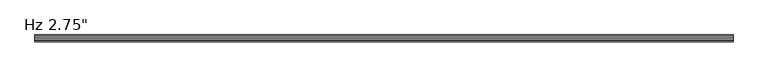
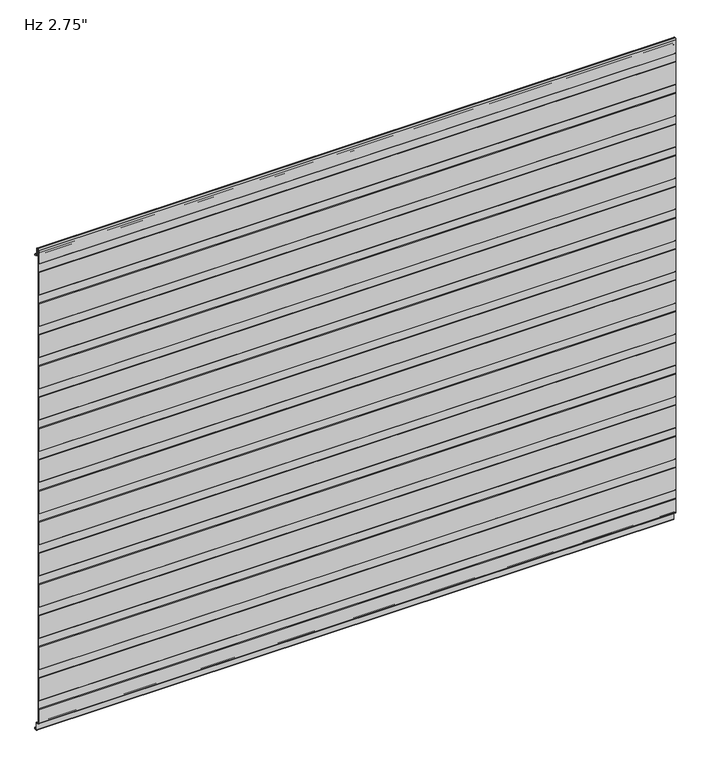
"""IFC4 building model written with IfcOpenShell, lengths in millimetres: plate geometry."""

from ifc_helpers import new_model, si_unit, frame, origin, place, context, project, spatial, polyline, circle_curve, source, transform, mapped, element, save
from ifc_brep_helpers import plane_surface, cylinder_surface, revolved_surface, advanced_brep


def plate_071a0944(model_context):
    return source(origin(), model_context, "Body", "AdvancedBrep", [
        advanced_brep(
        [(-730.0, -69.9, 966.9508592), (-730.0, -69.9, 1021.5303137), (-730.0, -68.7088405, 1022.6028385), (-730.0, -68.7088405, 1041.5009546), (-730.0, -69.9, 1042.5734794), (-730.0, -69.9, 1097.152934), (-730.0, -68.7088405, 1098.2254588), (-730.0, -68.7088405, 1117.1235749), (-730.0, -69.8999956, 1118.1960958), (-730.0, -69.8999956, 1150.8100652), (-730.0, -66.9227271, 1153.7873337), (-730.0, -65.8806285, 1153.7873337), (-730.0, -62.90336, 1150.8100652), (-730.0, -62.90336, 1136.6216801), (-730.0, -61.3154834, 1135.0338036), (-730.0, -56.9950653, 1135.0338036), (-730.0, -55.4065979, 1133.3929042), (-730.0, -55.4065979, 1131.0482432), (-730.0, -56.4060718, 1131.0482432), (-730.0, -56.4060718, 1133.4253365), (-730.0, -56.9950653, 1134.0338037), (-730.0, -61.3154834, 1134.0338037), (-730.0, -63.90336, 1136.6216801), (-730.0, -63.90336, 1150.8100652), (-730.0, -65.8806285, 1152.7873337), (-730.0, -66.9227271, 1152.7873337), (-730.0, -68.8999956, 1150.8100652), (-730.0, -68.8999956, 1118.6385351), (-730.0, -67.7088405, 1117.5660142), (-730.0, -67.7088405, 1097.7830195), (-730.0, -68.9, 1096.7104947), (-730.0, -68.9, 1043.0159187), (-730.0, -67.7088405, 1041.9433939), (-730.0, -67.7088405, 1022.1603992), (-730.0, -68.9, 1021.0878744), (-730.0, -68.9, 967.3932985), (-730.0, -67.7088405, 966.3207736), (-730.0, -67.7088405, 946.537779), (-730.0, -68.9, 945.4652541), (-730.0, -68.9, 891.7706782), (-730.0, -67.7088405, 890.6981534), (-730.0, -67.7088405, 870.9151587), (-730.0, -68.9, 869.8426339), (-730.0, -68.9, 816.148058), (-730.0, -67.7088405, 815.0755331), (-730.0, -67.7088405, 795.2925384), (-730.0, -68.9, 794.2200136), (-730.0, -68.9, 740.5254377), (-730.0, -67.7088405, 739.4529129), (-730.0, -67.7088405, 719.6699182), (-730.0, -68.9, 718.5973933), (-730.0, -68.9, 664.9028174), (-730.0, -67.7088405, 663.8302926), (-730.0, -67.7088405, 644.0472979), (-730.0, -68.9, 642.9747731), (-730.0, -68.9, 589.2801972), (-730.0, -67.7088405, 588.2076723), (-730.0, -67.7088405, 568.4246776), (-730.0, -68.9, 567.3521528), (-730.0, -68.9, 513.6575769), (-730.0, -67.7088405, 512.5850521), (-730.0, -67.7088405, 492.8020574), (-730.0, -68.9, 491.7295325), (-730.0, -68.9, 438.0349566), (-730.0, -67.7088405, 436.9624318), (-730.0, -67.7088405, 417.1794371), (-730.0, -68.9, 416.1069123), (-730.0, -68.9, 362.4123364), (-730.0, -67.7088405, 361.3398115), (-730.0, -67.7088405, 341.5568169), (-730.0, -68.9, 340.484292), (-730.0, -68.9, 286.7897161), (-730.0, -67.7088405, 285.7171913), (-730.0, -67.7088405, 265.9341966), (-730.0, -68.9, 264.8616718), (-730.0, -68.9, 211.1670958), (-730.0, -67.7088405, 210.094571), (-730.0, -67.7088405, 190.3115763), (-730.0, -68.9, 189.2390515), (-730.0, -68.9, 135.5444756), (-730.0, -67.7088405, 134.4719507), (-730.0, -67.7088405, 114.6889561), (-730.0, -68.9, 113.6164312), (-730.0, -68.9, 59.9218553), (-730.0, -67.7088405, 58.8493305), (-730.0, -67.7088405, 39.0663358), (-730.0, -68.9, 37.993811), (-730.0, -68.9, 5.82722), (-730.0, -66.9227096, 3.8499526), (-730.0, -64.6308258, 3.8499526), (-730.0, -60.6535573, -0.1273159), (-730.0, -60.6535573, -15.7237419), (-730.0, -60.0656807, -16.3116185), (-730.0, -56.994132, -16.3116185), (-730.0, -56.4062555, -15.7237419), (-730.0, -56.4062555, -13.3687064), (-730.0, -55.4062555, -13.3687064), (-730.0, -55.4062555, -15.7237419), (-730.0, -56.994132, -17.3116185), (-730.0, -60.0656807, -17.3116185), (-730.0, -61.6535573, -15.7237419), (-730.0, -61.6535573, -0.1273159), (-730.0, -64.6308258, 2.8499526), (-730.0, -66.9227096, 2.8499526), (-730.0, -69.8999782, 5.8272193), (-730.0, -69.9, 38.4362503), (-730.0, -68.7088405, 39.5087751), (-730.0, -68.7088405, 58.4068912), (-730.0, -69.9, 59.479416), (-730.0, -69.9, 114.0588705), (-730.0, -68.7088405, 115.1313954), (-730.0, -68.7088405, 134.0295114), (-730.0, -69.9, 135.1020363), (-730.0, -69.9, 189.6814908), (-730.0, -68.7088405, 190.7540156), (-730.0, -68.7088405, 209.6521317), (-730.0, -69.9, 210.7246565), (-730.0, -69.9, 265.3041111), (-730.0, -68.7088405, 266.3766359), (-730.0, -68.7088405, 285.274752), (-730.0, -69.9, 286.3472768), (-730.0, -69.9, 340.9267313), (-730.0, -68.7088405, 341.9992562), (-730.0, -68.7088405, 360.8973722), (-730.0, -69.9, 361.9698971), (-730.0, -69.9, 416.5493516), (-730.0, -68.7088405, 417.6218764), (-730.0, -68.7088405, 436.5199925), (-730.0, -69.9, 437.5925173), (-730.0, -69.9, 492.1719719), (-730.0, -68.7088405, 493.2444967), (-730.0, -68.7088405, 512.1426127), (-730.0, -69.9, 513.2151376), (-730.0, -69.9, 567.7945921), (-730.0, -68.7088405, 568.867117), (-730.0, -68.7088405, 587.765233), (-730.0, -69.9, 588.8377578), (-730.0, -69.9, 643.4172124), (-730.0, -68.7088405, 644.4897372), (-730.0, -68.7088405, 663.3878533), (-730.0, -69.9, 664.4603781), (-730.0, -69.9, 719.0398327), (-730.0, -68.7088405, 720.1123575), (-730.0, -68.7088405, 739.0104735), (-730.0, -69.9, 740.0829984), (-730.0, -69.9, 794.6624529), (-730.0, -68.7088405, 795.7349778), (-730.0, -68.7088405, 814.6330938), (-730.0, -69.9, 815.7056186), (-730.0, -69.9, 870.2850732), (-730.0, -68.7088405, 871.357598), (-730.0, -68.7088405, 890.2557141), (-730.0, -69.9, 891.3282389), (-730.0, -69.9, 945.9076934), (-730.0, -68.7088405, 946.9802183), (-730.0, -68.7088405, 965.8783343), (730.0, -69.9, 966.9508592), (730.0, -68.7088405, 965.8783343), (730.0, -68.7088405, 946.9802183), (730.0, -69.9, 945.9076934), (730.0, -69.9, 891.3282389), (730.0, -68.7088405, 890.2557141), (730.0, -68.7088405, 871.357598), (730.0, -69.9, 870.2850732), (730.0, -69.9, 815.7056186), (730.0, -68.7088405, 814.6330938), (730.0, -68.7088405, 795.7349778), (730.0, -69.9, 794.6624529), (730.0, -69.9, 740.0829984), (730.0, -68.7088405, 739.0104735), (730.0, -68.7088405, 720.1123575), (730.0, -69.9, 719.0398327), (730.0, -69.9, 664.4603781), (730.0, -68.7088405, 663.3878533), (730.0, -68.7088405, 644.4897372), (730.0, -69.9, 643.4172124), (730.0, -69.9, 588.8377578), (730.0, -68.7088405, 587.765233), (730.0, -68.7088405, 568.867117), (730.0, -69.9, 567.7945921), (730.0, -69.9, 513.2151376), (730.0, -68.7088405, 512.1426127), (730.0, -68.7088405, 493.2444967), (730.0, -69.9, 492.1719719), (730.0, -69.9, 437.5925173), (730.0, -68.7088405, 436.5199925), (730.0, -68.7088405, 417.6218764), (730.0, -69.9, 416.5493516), (730.0, -69.9, 361.9698971), (730.0, -68.7088405, 360.8973722), (730.0, -68.7088405, 341.9992562), (730.0, -69.9, 340.9267313), (730.0, -69.9, 286.3472768), (730.0, -68.7088405, 285.274752), (730.0, -68.7088405, 266.3766359), (730.0, -69.9, 265.3041111), (730.0, -69.9, 210.7246565), (730.0, -68.7088405, 209.6521317), (730.0, -68.7088405, 190.7540156), (730.0, -69.9, 189.6814908), (730.0, -69.9, 135.1020363), (730.0, -68.7088405, 134.0295114), (730.0, -68.7088405, 115.1313954), (730.0, -69.9, 114.0588705), (730.0, -69.9, 59.479416), (730.0, -68.7088405, 58.4068912), (730.0, -68.7088405, 39.5087751), (730.0, -69.9, 38.4362503), (730.0, -69.9, 5.8272193), (730.0, -66.9227096, 2.8499526), (730.0, -64.6308258, 2.8499526), (730.0, -61.6535573, -0.1273159), (730.0, -61.6535573, -15.7237419), (730.0, -60.0656807, -17.3116185), (730.0, -56.994132, -17.3116185), (730.0, -55.4062555, -15.7237419), (730.0, -55.4062555, -13.3687064), (730.0, -56.4062555, -13.3687064), (730.0, -56.4062555, -15.7237419), (730.0, -56.994132, -16.3116185), (730.0, -60.0656807, -16.3116185), (730.0, -60.6535573, -15.7237419), (730.0, -60.6535573, -0.1273159), (730.0, -64.6308258, 3.8499526), (730.0, -66.9227096, 3.8499526), (730.0, -68.8999782, 5.82722), (730.0, -68.9, 37.993811), (730.0, -67.7088405, 39.0663358), (730.0, -67.7088405, 58.8493305), (730.0, -68.9, 59.9218553), (730.0, -68.9, 113.6164312), (730.0, -67.7088405, 114.6889561), (730.0, -67.7088405, 134.4719507), (730.0, -68.9, 135.5444756), (730.0, -68.9, 189.2390515), (730.0, -67.7088405, 190.3115763), (730.0, -67.7088405, 210.094571), (730.0, -68.9, 211.1670958), (730.0, -68.9, 264.8616718), (730.0, -67.7088405, 265.9341966), (730.0, -67.7088405, 285.7171913), (730.0, -68.9, 286.7897161), (730.0, -68.9, 340.484292), (730.0, -67.7088405, 341.5568169), (730.0, -67.7088405, 361.3398115), (730.0, -68.9, 362.4123364), (730.0, -68.9, 416.1069123), (730.0, -67.7088405, 417.1794371), (730.0, -67.7088405, 436.9624318), (730.0, -68.9, 438.0349566), (730.0, -68.9, 491.7295325), (730.0, -67.7088405, 492.8020574), (730.0, -67.7088405, 512.5850521), (730.0, -68.9, 513.6575769), (730.0, -68.9, 567.3521528), (730.0, -67.7088405, 568.4246776), (730.0, -67.7088405, 588.2076723), (730.0, -68.9, 589.2801972), (730.0, -68.9, 642.9747731), (730.0, -67.7088405, 644.0472979), (730.0, -67.7088405, 663.8302926), (730.0, -68.9, 664.9028174), (730.0, -68.9, 718.5973933), (730.0, -67.7088405, 719.6699182), (730.0, -67.7088405, 739.4529129), (730.0, -68.9, 740.5254377), (730.0, -68.9, 794.2200136), (730.0, -67.7088405, 795.2925384), (730.0, -67.7088405, 815.0755331), (730.0, -68.9, 816.148058), (730.0, -68.9, 869.8426339), (730.0, -67.7088405, 870.9151587), (730.0, -67.7088405, 890.6981534), (730.0, -68.9, 891.7706782), (730.0, -68.9, 945.4652541), (730.0, -67.7088405, 946.537779), (730.0, -67.7088405, 966.3207736), (730.0, -68.9, 967.3932985), (730.0, -68.9, 1021.0878744), (730.0, -67.7088405, 1022.1603992), (730.0, -67.7088405, 1041.9433939), (730.0, -68.9, 1043.0159187), (730.0, -68.9, 1096.7104947), (730.0, -67.7088405, 1097.7830195), (730.0, -67.7088405, 1117.5660142), (730.0, -68.8999956, 1118.6385351), (730.0, -68.8999956, 1150.8100652), (730.0, -66.9227271, 1152.7873337), (730.0, -65.8806285, 1152.7873337), (730.0, -63.90336, 1150.8100652), (730.0, -63.90336, 1136.6216801), (730.0, -61.3154834, 1134.0338036), (730.0, -56.9950653, 1134.0338037), (730.0, -56.4060718, 1133.4253365), (730.0, -56.4060718, 1131.0482432), (730.0, -55.4065979, 1131.0482432), (730.0, -55.4065979, 1133.3929042), (730.0, -56.9950653, 1135.0338037), (730.0, -61.3154834, 1135.0338036), (730.0, -62.90336, 1136.6216801), (730.0, -62.90336, 1150.8100652), (730.0, -65.8806285, 1153.7873337), (730.0, -66.9227271, 1153.7873337), (730.0, -69.8999956, 1150.8100652), (730.0, -69.8999956, 1118.1960958), (730.0, -68.7088405, 1117.1235749), (730.0, -68.7088405, 1098.2254588), (730.0, -69.9, 1097.152934), (730.0, -69.9, 1042.5734794), (730.0, -68.7088405, 1041.5009546), (730.0, -68.7088405, 1022.6028385), (730.0, -69.9, 1021.5303137)],
        [
            (0, 1),
            (1, 2),
            (2, 3),
            (3, 4),
            (4, 5),
            (5, 6),
            (6, 7),
            (7, 8),
            (8, 9),
            (9, 10, circle_curve(frame((-730.0, -66.9227271, 1150.8100652), z_axis=(-1.0, 0.0, 0.0), x_axis=(0.0, 0.0, -1.0)), 2.9772685)),
            (10, 11),
            (11, 12, circle_curve(frame((-730.0, -65.8806285, 1150.8100652), z_axis=(-1.0, 0.0, 0.0), x_axis=(0.0, 0.0, -1.0)), 2.9772685)),
            (12, 13),
            (13, 14, circle_curve(frame((-730.0, -61.3154834, 1136.6216801), z_axis=(1.0, 0.0, 0.0), x_axis=(0.0, 0.0, -1.0)), 1.5878765)),
            (14, 15),
            (15, 16, circle_curve(frame((-730.0, -56.9950653, 1133.4444985), z_axis=(-1.0, 0.0, 0.0), x_axis=(0.0, 0.0, -1.0)), 1.5893052)),
            (16, 17),
            (17, 18),
            (18, 19),
            (19, 20, circle_curve(frame((-730.0, -56.9950653, 1133.4444985), z_axis=(1.0, 0.0, 0.0), x_axis=(0.0, 0.0, -1.0)), 0.5893052)),
            (20, 21),
            (21, 22, circle_curve(frame((-730.0, -61.3154834, 1136.6216801), z_axis=(-1.0, 0.0, 0.0), x_axis=(0.0, 0.0, -1.0)), 2.5878765)),
            (22, 23),
            (23, 24, circle_curve(frame((-730.0, -65.8806285, 1150.8100652), z_axis=(1.0, 0.0, 0.0), x_axis=(0.0, 0.0, -1.0)), 1.9772685)),
            (24, 25),
            (25, 26, circle_curve(frame((-730.0, -66.9227271, 1150.8100652), z_axis=(1.0, 0.0, 0.0), x_axis=(0.0, 0.0, -1.0)), 1.9772685)),
            (26, 27),
            (27, 28),
            (28, 29),
            (29, 30),
            (30, 31),
            (31, 32),
            (32, 33),
            (33, 34),
            (34, 35),
            (35, 36),
            (36, 37),
            (37, 38),
            (38, 39),
            (39, 40),
            (40, 41),
            (41, 42),
            (42, 43),
            (43, 44),
            (44, 45),
            (45, 46),
            (46, 47),
            (47, 48),
            (48, 49),
            (49, 50),
            (50, 51),
            (51, 52),
            (52, 53),
            (53, 54),
            (54, 55),
            (55, 56),
            (56, 57),
            (57, 58),
            (58, 59),
            (59, 60),
            (60, 61),
            (61, 62),
            (62, 63),
            (63, 64),
            (64, 65),
            (65, 66),
            (66, 67),
            (67, 68),
            (68, 69),
            (69, 70),
            (70, 71),
            (71, 72),
            (72, 73),
            (73, 74),
            (74, 75),
            (75, 76),
            (76, 77),
            (77, 78),
            (78, 79),
            (79, 80),
            (80, 81),
            (81, 82),
            (82, 83),
            (83, 84),
            (84, 85),
            (85, 86),
            (86, 87),
            (87, 88, circle_curve(frame((-730.0, -66.9227096, 5.8272212), z_axis=(1.0, 0.0, 0.0), x_axis=(0.0, 0.0, -1.0)), 1.9772685)),
            (88, 89),
            (89, 90, circle_curve(frame((-730.0, -64.6308258, -0.1273159), z_axis=(-1.0, 0.0, 0.0), x_axis=(0.0, 0.0, -1.0)), 3.9772685)),
            (90, 91),
            (91, 92, circle_curve(frame((-730.0, -60.0656807, -15.7237419), z_axis=(1.0, 0.0, 0.0), x_axis=(0.0, 0.0, -1.0)), 0.5878765)),
            (92, 93),
            (93, 94, circle_curve(frame((-730.0, -56.994132, -15.7237419), z_axis=(1.0, 0.0, 0.0), x_axis=(0.0, 0.0, -1.0)), 0.5878765)),
            (94, 95),
            (95, 96),
            (96, 97),
            (97, 98, circle_curve(frame((-730.0, -56.994132, -15.7237419), z_axis=(-1.0, 0.0, 0.0), x_axis=(0.0, 0.0, -1.0)), 1.5878765)),
            (98, 99),
            (99, 100, circle_curve(frame((-730.0, -60.0656807, -15.7237419), z_axis=(-1.0, 0.0, 0.0), x_axis=(0.0, 0.0, -1.0)), 1.5878765)),
            (100, 101),
            (101, 102, circle_curve(frame((-730.0, -64.6308258, -0.1273159), z_axis=(1.0, 0.0, 0.0), x_axis=(0.0, 0.0, -1.0)), 2.9772685)),
            (102, 103),
            (103, 104, circle_curve(frame((-730.0, -66.9227096, 5.8272211), z_axis=(-1.0, 0.0, 0.0), x_axis=(0.0, 0.0, -1.0)), 2.9772685)),
            (104, 105),
            (105, 106),
            (106, 107),
            (107, 108),
            (108, 109),
            (109, 110),
            (110, 111),
            (111, 112),
            (112, 113),
            (113, 114),
            (114, 115),
            (115, 116),
            (116, 117),
            (117, 118),
            (118, 119),
            (119, 120),
            (120, 121),
            (121, 122),
            (122, 123),
            (123, 124),
            (124, 125),
            (125, 126),
            (126, 127),
            (127, 128),
            (128, 129),
            (129, 130),
            (130, 131),
            (131, 132),
            (132, 133),
            (133, 134),
            (134, 135),
            (135, 136),
            (136, 137),
            (137, 138),
            (138, 139),
            (139, 140),
            (140, 141),
            (141, 142),
            (142, 143),
            (143, 144),
            (144, 145),
            (145, 146),
            (146, 147),
            (147, 148),
            (148, 149),
            (149, 150),
            (150, 151),
            (151, 152),
            (152, 153),
            (153, 154),
            (154, 155),
            (155, 0),
            (156, 157),
            (157, 158),
            (158, 159),
            (159, 160),
            (160, 161),
            (161, 162),
            (162, 163),
            (163, 164),
            (164, 165),
            (165, 166),
            (166, 167),
            (167, 168),
            (168, 169),
            (169, 170),
            (170, 171),
            (171, 172),
            (172, 173),
            (173, 174),
            (174, 175),
            (175, 176),
            (176, 177),
            (177, 178),
            (178, 179),
            (179, 180),
            (180, 181),
            (181, 182),
            (182, 183),
            (183, 184),
            (184, 185),
            (185, 186),
            (186, 187),
            (187, 188),
            (188, 189),
            (189, 190),
            (190, 191),
            (191, 192),
            (192, 193),
            (193, 194),
            (194, 195),
            (195, 196),
            (196, 197),
            (197, 198),
            (198, 199),
            (199, 200),
            (200, 201),
            (201, 202),
            (202, 203),
            (203, 204),
            (204, 205),
            (205, 206),
            (206, 207),
            (207, 208),
            (208, 209, circle_curve(frame((730.0, -66.9227096, 5.8272211), z_axis=(1.0, 0.0, 0.0), x_axis=(0.0, 0.0, -1.0)), 2.9772685)),
            (209, 210),
            (210, 211, circle_curve(frame((730.0, -64.6308258, -0.1273159), z_axis=(-1.0, 0.0, 0.0), x_axis=(0.0, 0.0, -1.0)), 2.9772685)),
            (211, 212),
            (212, 213, circle_curve(frame((730.0, -60.0656807, -15.7237419), z_axis=(1.0, 0.0, 0.0), x_axis=(0.0, 0.0, -1.0)), 1.5878765)),
            (213, 214),
            (214, 215, circle_curve(frame((730.0, -56.994132, -15.7237419), z_axis=(1.0, 0.0, 0.0), x_axis=(0.0, 0.0, -1.0)), 1.5878765)),
            (215, 216),
            (216, 217),
            (217, 218),
            (218, 219, circle_curve(frame((730.0, -56.994132, -15.7237419), z_axis=(-1.0, 0.0, 0.0), x_axis=(0.0, 0.0, -1.0)), 0.5878765)),
            (219, 220),
            (220, 221, circle_curve(frame((730.0, -60.0656807, -15.7237419), z_axis=(-1.0, 0.0, 0.0), x_axis=(0.0, 0.0, -1.0)), 0.5878765)),
            (221, 222),
            (222, 223, circle_curve(frame((730.0, -64.6308258, -0.1273159), z_axis=(1.0, 0.0, 0.0), x_axis=(0.0, 0.0, -1.0)), 3.9772685)),
            (223, 224),
            (224, 225, circle_curve(frame((730.0, -66.9227096, 5.8272212), z_axis=(-1.0, 0.0, 0.0), x_axis=(0.0, 0.0, -1.0)), 1.9772685)),
            (225, 226),
            (226, 227),
            (227, 228),
            (228, 229),
            (229, 230),
            (230, 231),
            (231, 232),
            (232, 233),
            (233, 234),
            (234, 235),
            (235, 236),
            (236, 237),
            (237, 238),
            (238, 239),
            (239, 240),
            (240, 241),
            (241, 242),
            (242, 243),
            (243, 244),
            (244, 245),
            (245, 246),
            (246, 247),
            (247, 248),
            (248, 249),
            (249, 250),
            (250, 251),
            (251, 252),
            (252, 253),
            (253, 254),
            (254, 255),
            (255, 256),
            (256, 257),
            (257, 258),
            (258, 259),
            (259, 260),
            (260, 261),
            (261, 262),
            (262, 263),
            (263, 264),
            (264, 265),
            (265, 266),
            (266, 267),
            (267, 268),
            (268, 269),
            (269, 270),
            (270, 271),
            (271, 272),
            (272, 273),
            (273, 274),
            (274, 275),
            (275, 276),
            (276, 277),
            (277, 278),
            (278, 279),
            (279, 280),
            (280, 281),
            (281, 282),
            (282, 283),
            (283, 284),
            (284, 285),
            (285, 286),
            (286, 287, circle_curve(frame((730.0, -66.9227271, 1150.8100652), z_axis=(-1.0, 0.0, 0.0), x_axis=(0.0, 0.0, -1.0)), 1.9772685)),
            (287, 288),
            (288, 289, circle_curve(frame((730.0, -65.8806285, 1150.8100652), z_axis=(-1.0, 0.0, 0.0), x_axis=(0.0, 0.0, -1.0)), 1.9772685)),
            (289, 290),
            (290, 291, circle_curve(frame((730.0, -61.3154834, 1136.6216801), z_axis=(1.0, 0.0, 0.0), x_axis=(0.0, 0.0, -1.0)), 2.5878765)),
            (291, 292),
            (292, 293, circle_curve(frame((730.0, -56.9950653, 1133.4444985), z_axis=(-1.0, 0.0, 0.0), x_axis=(0.0, 0.0, -1.0)), 0.5893052)),
            (293, 294),
            (294, 295),
            (295, 296),
            (296, 297, circle_curve(frame((730.0, -56.9950653, 1133.4444985), z_axis=(1.0, 0.0, 0.0), x_axis=(0.0, 0.0, -1.0)), 1.5893052)),
            (297, 298),
            (298, 299, circle_curve(frame((730.0, -61.3154834, 1136.6216801), z_axis=(-1.0, 0.0, 0.0), x_axis=(0.0, 0.0, -1.0)), 1.5878765)),
            (299, 300),
            (300, 301, circle_curve(frame((730.0, -65.8806285, 1150.8100652), z_axis=(1.0, 0.0, 0.0), x_axis=(0.0, 0.0, -1.0)), 2.9772685)),
            (301, 302),
            (302, 303, circle_curve(frame((730.0, -66.9227271, 1150.8100652), z_axis=(1.0, 0.0, 0.0), x_axis=(0.0, 0.0, -1.0)), 2.9772685)),
            (303, 304),
            (304, 305),
            (305, 306),
            (306, 307),
            (307, 308),
            (308, 309),
            (309, 310),
            (310, 311),
            (311, 156),
            (155, 157),
            (156, 0),
            (154, 158),
            (153, 159),
            (152, 160),
            (151, 161),
            (150, 162),
            (149, 163),
            (148, 164),
            (147, 165),
            (146, 166),
            (145, 167),
            (144, 168),
            (143, 169),
            (142, 170),
            (141, 171),
            (140, 172),
            (139, 173),
            (138, 174),
            (137, 175),
            (136, 176),
            (135, 177),
            (134, 178),
            (133, 179),
            (132, 180),
            (131, 181),
            (130, 182),
            (129, 183),
            (128, 184),
            (127, 185),
            (126, 186),
            (125, 187),
            (124, 188),
            (123, 189),
            (122, 190),
            (121, 191),
            (120, 192),
            (119, 193),
            (118, 194),
            (117, 195),
            (116, 196),
            (115, 197),
            (114, 198),
            (113, 199),
            (112, 200),
            (111, 201),
            (110, 202),
            (109, 203),
            (108, 204),
            (107, 205),
            (106, 206),
            (105, 207),
            (104, 208),
            (103, 209),
            (102, 210),
            (101, 211),
            (100, 212),
            (99, 213),
            (98, 214),
            (97, 215),
            (96, 216),
            (95, 217),
            (94, 218),
            (93, 219),
            (92, 220),
            (91, 221),
            (90, 222),
            (89, 223),
            (88, 224),
            (87, 225),
            (86, 226),
            (85, 227),
            (84, 228),
            (83, 229),
            (82, 230),
            (81, 231),
            (80, 232),
            (79, 233),
            (78, 234),
            (77, 235),
            (76, 236),
            (75, 237),
            (74, 238),
            (73, 239),
            (72, 240),
            (71, 241),
            (70, 242),
            (69, 243),
            (68, 244),
            (67, 245),
            (66, 246),
            (65, 247),
            (64, 248),
            (63, 249),
            (62, 250),
            (61, 251),
            (60, 252),
            (59, 253),
            (58, 254),
            (57, 255),
            (56, 256),
            (55, 257),
            (54, 258),
            (53, 259),
            (52, 260),
            (51, 261),
            (50, 262),
            (49, 263),
            (48, 264),
            (47, 265),
            (46, 266),
            (45, 267),
            (44, 268),
            (43, 269),
            (42, 270),
            (41, 271),
            (40, 272),
            (39, 273),
            (38, 274),
            (37, 275),
            (36, 276),
            (35, 277),
            (34, 278),
            (33, 279),
            (32, 280),
            (31, 281),
            (30, 282),
            (29, 283),
            (28, 284),
            (27, 285),
            (26, 286),
            (25, 287),
            (24, 288),
            (23, 289),
            (22, 290),
            (21, 291),
            (20, 292),
            (19, 293),
            (18, 294),
            (17, 295),
            (16, 296),
            (15, 297),
            (14, 298),
            (13, 299),
            (12, 300),
            (11, 301),
            (10, 302),
            (9, 303),
            (8, 304),
            (7, 305),
            (6, 306),
            (5, 307),
            (4, 308),
            (3, 309),
            (2, 310),
            (1, 311),
        ],
        [
            plane_surface(frame((-730.0, -69.9, 576.2625), z_axis=(-1.0, 0.0, 0.0), x_axis=(0.0, -1.0, 0.0))),
            plane_surface(frame((730.0, -69.9, 576.2625), z_axis=(1.0, 0.0, 0.0), x_axis=(0.0, -1.0, 0.0))),
            plane_surface(frame((-730.0, -69.9, 966.9508592), z_axis=(0.0, -0.6691306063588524, -0.7431448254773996), x_axis=(1.0, 0.0, 0.0))),
            plane_surface(frame((-730.0, -68.7088405, 965.8783343), z_axis=(0.0, -1.0, 0.0), x_axis=(1.0, 0.0, 0.0))),
            plane_surface(frame((-730.0, -68.7088405, 946.9802183), z_axis=(0.0, -0.6691306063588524, 0.7431448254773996), x_axis=(1.0, 0.0, 0.0))),
            plane_surface(frame((-730.0, -69.9, 945.9076934), z_axis=(0.0, -1.0, 0.0), x_axis=(1.0, 0.0, 0.0))),
            plane_surface(frame((-730.0, -69.9, 891.3282389), z_axis=(0.0, -0.6691306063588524, -0.7431448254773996), x_axis=(1.0, 0.0, 0.0))),
            plane_surface(frame((-730.0, -68.7088405, 890.2557141), z_axis=(0.0, -1.0, 0.0), x_axis=(1.0, 0.0, 0.0))),
            plane_surface(frame((-730.0, -68.7088405, 871.357598), z_axis=(0.0, -0.6691306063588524, 0.7431448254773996), x_axis=(1.0, 0.0, 0.0))),
            plane_surface(frame((-730.0, -69.9, 870.2850732), z_axis=(0.0, -1.0, 0.0), x_axis=(1.0, 0.0, 0.0))),
            plane_surface(frame((-730.0, -69.9, 815.7056186), z_axis=(0.0, -0.6691306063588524, -0.7431448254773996), x_axis=(1.0, 0.0, 0.0))),
            plane_surface(frame((-730.0, -68.7088405, 814.6330938), z_axis=(0.0, -1.0, 0.0), x_axis=(1.0, 0.0, 0.0))),
            plane_surface(frame((-730.0, -68.7088405, 795.7349778), z_axis=(0.0, -0.6691306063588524, 0.7431448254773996), x_axis=(1.0, 0.0, 0.0))),
            plane_surface(frame((-730.0, -69.9, 794.6624529), z_axis=(0.0, -1.0, 0.0), x_axis=(1.0, 0.0, 0.0))),
            plane_surface(frame((-730.0, -69.9, 740.0829984), z_axis=(0.0, -0.6691306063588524, -0.7431448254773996), x_axis=(1.0, 0.0, 0.0))),
            plane_surface(frame((-730.0, -68.7088405, 739.0104735), z_axis=(0.0, -1.0, 0.0), x_axis=(1.0, 0.0, 0.0))),
            plane_surface(frame((-730.0, -68.7088405, 720.1123575), z_axis=(0.0, -0.6691306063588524, 0.7431448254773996), x_axis=(1.0, 0.0, 0.0))),
            plane_surface(frame((-730.0, -69.9, 719.0398327), z_axis=(0.0, -1.0, 0.0), x_axis=(1.0, 0.0, 0.0))),
            plane_surface(frame((-730.0, -69.9, 664.4603781), z_axis=(0.0, -0.6691306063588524, -0.7431448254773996), x_axis=(1.0, 0.0, 0.0))),
            plane_surface(frame((-730.0, -68.7088405, 663.3878533), z_axis=(0.0, -1.0, 0.0), x_axis=(1.0, 0.0, 0.0))),
            plane_surface(frame((-730.0, -68.7088405, 644.4897372), z_axis=(0.0, -0.6691306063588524, 0.7431448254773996), x_axis=(1.0, 0.0, 0.0))),
            plane_surface(frame((-730.0, -69.9, 643.4172124), z_axis=(0.0, -1.0, 0.0), x_axis=(1.0, 0.0, 0.0))),
            plane_surface(frame((-730.0, -69.9, 588.8377578), z_axis=(0.0, -0.6691306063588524, -0.7431448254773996), x_axis=(1.0, 0.0, 0.0))),
            plane_surface(frame((-730.0, -68.7088405, 587.765233), z_axis=(0.0, -1.0, 0.0), x_axis=(1.0, 0.0, 0.0))),
            plane_surface(frame((-730.0, -68.7088405, 568.867117), z_axis=(0.0, -0.6691306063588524, 0.7431448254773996), x_axis=(1.0, 0.0, 0.0))),
            plane_surface(frame((-730.0, -69.9, 567.7945921), z_axis=(0.0, -1.0, 0.0), x_axis=(1.0, 0.0, 0.0))),
            plane_surface(frame((-730.0, -69.9, 513.2151376), z_axis=(0.0, -0.6691306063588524, -0.7431448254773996), x_axis=(1.0, 0.0, 0.0))),
            plane_surface(frame((-730.0, -68.7088405, 512.1426127), z_axis=(0.0, -1.0, 0.0), x_axis=(1.0, 0.0, 0.0))),
            plane_surface(frame((-730.0, -68.7088405, 493.2444967), z_axis=(0.0, -0.6691306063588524, 0.7431448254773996), x_axis=(1.0, 0.0, 0.0))),
            plane_surface(frame((-730.0, -69.9, 492.1719719), z_axis=(0.0, -1.0, 0.0), x_axis=(1.0, 0.0, 0.0))),
            plane_surface(frame((-730.0, -69.9, 437.5925173), z_axis=(0.0, -0.6691306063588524, -0.7431448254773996), x_axis=(1.0, 0.0, 0.0))),
            plane_surface(frame((-730.0, -68.7088405, 436.5199925), z_axis=(0.0, -1.0, 0.0), x_axis=(1.0, 0.0, 0.0))),
            plane_surface(frame((-730.0, -68.7088405, 417.6218764), z_axis=(0.0, -0.6691306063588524, 0.7431448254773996), x_axis=(1.0, 0.0, 0.0))),
            plane_surface(frame((-730.0, -69.9, 416.5493516), z_axis=(0.0, -1.0, 0.0), x_axis=(1.0, 0.0, 0.0))),
            plane_surface(frame((-730.0, -69.9, 361.9698971), z_axis=(0.0, -0.6691306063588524, -0.7431448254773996), x_axis=(1.0, 0.0, 0.0))),
            plane_surface(frame((-730.0, -68.7088405, 360.8973722), z_axis=(0.0, -1.0, 0.0), x_axis=(1.0, 0.0, 0.0))),
            plane_surface(frame((-730.0, -68.7088405, 341.9992562), z_axis=(0.0, -0.6691306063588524, 0.7431448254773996), x_axis=(1.0, 0.0, 0.0))),
            plane_surface(frame((-730.0, -69.9, 340.9267313), z_axis=(0.0, -1.0, 0.0), x_axis=(1.0, 0.0, 0.0))),
            plane_surface(frame((-730.0, -69.9, 286.3472768), z_axis=(0.0, -0.6691306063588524, -0.7431448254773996), x_axis=(1.0, 0.0, 0.0))),
            plane_surface(frame((-730.0, -68.7088405, 285.274752), z_axis=(0.0, -1.0, 0.0), x_axis=(1.0, 0.0, 0.0))),
            plane_surface(frame((-730.0, -68.7088405, 266.3766359), z_axis=(0.0, -0.6691306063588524, 0.7431448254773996), x_axis=(1.0, 0.0, 0.0))),
            plane_surface(frame((-730.0, -69.9, 265.3041111), z_axis=(0.0, -1.0, 0.0), x_axis=(1.0, 0.0, 0.0))),
            plane_surface(frame((-730.0, -69.9, 210.7246565), z_axis=(0.0, -0.6691306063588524, -0.7431448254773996), x_axis=(1.0, 0.0, 0.0))),
            plane_surface(frame((-730.0, -68.7088405, 209.6521317), z_axis=(0.0, -1.0, 0.0), x_axis=(1.0, 0.0, 0.0))),
            plane_surface(frame((-730.0, -68.7088405, 190.7540156), z_axis=(0.0, -0.6691306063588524, 0.7431448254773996), x_axis=(1.0, 0.0, 0.0))),
            plane_surface(frame((-730.0, -69.9, 189.6814908), z_axis=(0.0, -1.0, 0.0), x_axis=(1.0, 0.0, 0.0))),
            plane_surface(frame((-730.0, -69.9, 135.1020363), z_axis=(0.0, -0.6691306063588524, -0.7431448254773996), x_axis=(1.0, 0.0, 0.0))),
            plane_surface(frame((-730.0, -68.7088405, 134.0295114), z_axis=(0.0, -1.0, 0.0), x_axis=(1.0, 0.0, 0.0))),
            plane_surface(frame((-730.0, -68.7088405, 115.1313954), z_axis=(0.0, -0.6691306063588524, 0.7431448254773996), x_axis=(1.0, 0.0, 0.0))),
            plane_surface(frame((-730.0, -69.9, 114.0588705), z_axis=(0.0, -1.0, 0.0), x_axis=(1.0, 0.0, 0.0))),
            plane_surface(frame((-730.0, -69.9, 59.479416), z_axis=(0.0, -0.6691306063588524, -0.7431448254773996), x_axis=(1.0, 0.0, 0.0))),
            plane_surface(frame((-730.0, -68.7088405, 58.4068912), z_axis=(0.0, -1.0, 0.0), x_axis=(1.0, 0.0, 0.0))),
            plane_surface(frame((-730.0, -68.7088405, 39.5087751), z_axis=(0.0, -0.6691306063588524, 0.7431448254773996), x_axis=(1.0, 0.0, 0.0))),
            plane_surface(frame((-730.0, -69.9, 38.4362503), z_axis=(0.0, -1.0, 0.0), x_axis=(1.0, 0.0, 0.0))),
            cylinder_surface(frame((-730.0, -66.9227096, 5.8272211), z_axis=(-1.0, 0.0, 0.0), x_axis=(0.0, 0.0, -1.0)), 2.9772685),
            plane_surface(frame((-730.0, -66.9227096, 2.8499526), z_axis=(0.0, 0.0, -1.0), x_axis=(1.0, 0.0, 0.0))),
            revolved_surface(polyline([(730.0, -64.6308258, -3.1045844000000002), (-730.0, -64.6308258, -3.1045844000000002)]), (-730.0, -64.6308258, -0.1273159), (1.0, 0.0, 0.0)),
            plane_surface(frame((-730.0, -61.6535573, -0.1273159), z_axis=(0.0, -1.0, 0.0), x_axis=(1.0, 0.0, 0.0))),
            cylinder_surface(frame((-730.0, -60.0656807, -15.7237419), z_axis=(-1.0, 0.0, 0.0), x_axis=(0.0, 0.0, -1.0)), 1.5878765),
            plane_surface(frame((-730.0, -60.0656807, -17.3116185), z_axis=(0.0, 0.0, -1.0), x_axis=(1.0, 0.0, 0.0))),
            cylinder_surface(frame((-730.0, -56.994132, -15.7237419), z_axis=(-1.0, 0.0, 0.0), x_axis=(0.0, 0.0, -1.0)), 1.5878765),
            plane_surface(frame((-730.0, -55.4062555, -15.7237419), z_axis=(0.0, 1.0, 0.0), x_axis=(1.0, 0.0, 0.0))),
            plane_surface(frame((-730.0, -55.4062555, -13.3687064), z_axis=(0.0, 0.0, 1.0), x_axis=(1.0, 0.0, 0.0))),
            plane_surface(frame((-730.0, -56.4062555, -13.3687064), z_axis=(0.0, -1.0, 0.0), x_axis=(1.0, 0.0, 0.0))),
            revolved_surface(polyline([(730.0, -56.994132, -16.3116184), (-730.0, -56.994132, -16.3116184)]), (-730.0, -56.994132, -15.7237419), (1.0, 0.0, 0.0)),
            plane_surface(frame((-730.0, -56.994132, -16.3116185), z_axis=(0.0, 0.0, 1.0), x_axis=(1.0, 0.0, 0.0))),
            revolved_surface(polyline([(730.0, -60.0656807, -16.3116184), (-730.0, -60.0656807, -16.3116184)]), (-730.0, -60.0656807, -15.7237419), (1.0, 0.0, 0.0)),
            plane_surface(frame((-730.0, -60.6535573, -15.7237419), z_axis=(0.0, 1.0, 0.0), x_axis=(1.0, 0.0, 0.0))),
            cylinder_surface(frame((-730.0, -64.6308258, -0.1273159), z_axis=(-1.0, 0.0, 0.0), x_axis=(0.0, 0.0, -1.0)), 3.9772685),
            plane_surface(frame((-730.0, -64.6308258, 3.8499526), z_axis=(0.0, 0.0, 1.0), x_axis=(1.0, 0.0, 0.0))),
            revolved_surface(polyline([(730.0, -66.9227096, 3.8499527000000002), (-730.0, -66.9227096, 3.8499527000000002)]), (-730.0, -66.9227096, 5.8272212), (1.0, 0.0, 0.0)),
            plane_surface(frame((-730.0, -68.9, 5.82722), z_axis=(0.0, 1.0, 0.0), x_axis=(1.0, 0.0, 0.0))),
            plane_surface(frame((-730.0, -68.9, 37.993811), z_axis=(0.0, 0.6691306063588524, -0.7431448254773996), x_axis=(1.0, 0.0, 0.0))),
            plane_surface(frame((-730.0, -67.7088405, 39.0663358), z_axis=(0.0, 1.0, 0.0), x_axis=(1.0, 0.0, 0.0))),
            plane_surface(frame((-730.0, -67.7088405, 58.8493305), z_axis=(0.0, 0.6691306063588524, 0.7431448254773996), x_axis=(1.0, 0.0, 0.0))),
            plane_surface(frame((-730.0, -68.9, 59.9218553), z_axis=(0.0, 1.0, 0.0), x_axis=(1.0, 0.0, 0.0))),
            plane_surface(frame((-730.0, -68.9, 113.6164312), z_axis=(0.0, 0.6691306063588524, -0.7431448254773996), x_axis=(1.0, 0.0, 0.0))),
            plane_surface(frame((-730.0, -67.7088405, 114.6889561), z_axis=(0.0, 1.0, 0.0), x_axis=(1.0, 0.0, 0.0))),
            plane_surface(frame((-730.0, -67.7088405, 134.4719507), z_axis=(0.0, 0.6691306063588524, 0.7431448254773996), x_axis=(1.0, 0.0, 0.0))),
            plane_surface(frame((-730.0, -68.9, 135.5444756), z_axis=(0.0, 1.0, 0.0), x_axis=(1.0, 0.0, 0.0))),
            plane_surface(frame((-730.0, -68.9, 189.2390515), z_axis=(0.0, 0.6691306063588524, -0.7431448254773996), x_axis=(1.0, 0.0, 0.0))),
            plane_surface(frame((-730.0, -67.7088405, 190.3115763), z_axis=(0.0, 1.0, 0.0), x_axis=(1.0, 0.0, 0.0))),
            plane_surface(frame((-730.0, -67.7088405, 210.094571), z_axis=(0.0, 0.6691306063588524, 0.7431448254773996), x_axis=(1.0, 0.0, 0.0))),
            plane_surface(frame((-730.0, -68.9, 211.1670958), z_axis=(0.0, 1.0, 0.0), x_axis=(1.0, 0.0, 0.0))),
            plane_surface(frame((-730.0, -68.9, 264.8616718), z_axis=(0.0, 0.6691306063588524, -0.7431448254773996), x_axis=(1.0, 0.0, 0.0))),
            plane_surface(frame((-730.0, -67.7088405, 265.9341966), z_axis=(0.0, 1.0, 0.0), x_axis=(1.0, 0.0, 0.0))),
            plane_surface(frame((-730.0, -67.7088405, 285.7171913), z_axis=(0.0, 0.6691306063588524, 0.7431448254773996), x_axis=(1.0, 0.0, 0.0))),
            plane_surface(frame((-730.0, -68.9, 286.7897161), z_axis=(0.0, 1.0, 0.0), x_axis=(1.0, 0.0, 0.0))),
            plane_surface(frame((-730.0, -68.9, 340.484292), z_axis=(0.0, 0.6691306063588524, -0.7431448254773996), x_axis=(1.0, 0.0, 0.0))),
            plane_surface(frame((-730.0, -67.7088405, 341.5568169), z_axis=(0.0, 1.0, 0.0), x_axis=(1.0, 0.0, 0.0))),
            plane_surface(frame((-730.0, -67.7088405, 361.3398115), z_axis=(0.0, 0.6691306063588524, 0.7431448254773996), x_axis=(1.0, 0.0, 0.0))),
            plane_surface(frame((-730.0, -68.9, 362.4123364), z_axis=(0.0, 1.0, 0.0), x_axis=(1.0, 0.0, 0.0))),
            plane_surface(frame((-730.0, -68.9, 416.1069123), z_axis=(0.0, 0.6691306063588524, -0.7431448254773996), x_axis=(1.0, 0.0, 0.0))),
            plane_surface(frame((-730.0, -67.7088405, 417.1794371), z_axis=(0.0, 1.0, 0.0), x_axis=(1.0, 0.0, 0.0))),
            plane_surface(frame((-730.0, -67.7088405, 436.9624318), z_axis=(0.0, 0.6691306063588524, 0.7431448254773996), x_axis=(1.0, 0.0, 0.0))),
            plane_surface(frame((-730.0, -68.9, 438.0349566), z_axis=(0.0, 1.0, 0.0), x_axis=(1.0, 0.0, 0.0))),
            plane_surface(frame((-730.0, -68.9, 491.7295325), z_axis=(0.0, 0.6691306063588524, -0.7431448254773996), x_axis=(1.0, 0.0, 0.0))),
            plane_surface(frame((-730.0, -67.7088405, 492.8020574), z_axis=(0.0, 1.0, 0.0), x_axis=(1.0, 0.0, 0.0))),
            plane_surface(frame((-730.0, -67.7088405, 512.5850521), z_axis=(0.0, 0.6691306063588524, 0.7431448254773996), x_axis=(1.0, 0.0, 0.0))),
            plane_surface(frame((-730.0, -68.9, 513.6575769), z_axis=(0.0, 1.0, 0.0), x_axis=(1.0, 0.0, 0.0))),
            plane_surface(frame((-730.0, -68.9, 567.3521528), z_axis=(0.0, 0.6691306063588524, -0.7431448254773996), x_axis=(1.0, 0.0, 0.0))),
            plane_surface(frame((-730.0, -67.7088405, 568.4246776), z_axis=(0.0, 1.0, 0.0), x_axis=(1.0, 0.0, 0.0))),
            plane_surface(frame((-730.0, -67.7088405, 588.2076723), z_axis=(0.0, 0.6691306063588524, 0.7431448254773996), x_axis=(1.0, 0.0, 0.0))),
            plane_surface(frame((-730.0, -68.9, 589.2801972), z_axis=(0.0, 1.0, 0.0), x_axis=(1.0, 0.0, 0.0))),
            plane_surface(frame((-730.0, -68.9, 642.9747731), z_axis=(0.0, 0.6691306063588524, -0.7431448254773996), x_axis=(1.0, 0.0, 0.0))),
            plane_surface(frame((-730.0, -67.7088405, 644.0472979), z_axis=(0.0, 1.0, 0.0), x_axis=(1.0, 0.0, 0.0))),
            plane_surface(frame((-730.0, -67.7088405, 663.8302926), z_axis=(0.0, 0.6691306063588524, 0.7431448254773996), x_axis=(1.0, 0.0, 0.0))),
            plane_surface(frame((-730.0, -68.9, 664.9028174), z_axis=(0.0, 1.0, 0.0), x_axis=(1.0, 0.0, 0.0))),
            plane_surface(frame((-730.0, -68.9, 718.5973933), z_axis=(0.0, 0.6691306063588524, -0.7431448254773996), x_axis=(1.0, 0.0, 0.0))),
            plane_surface(frame((-730.0, -67.7088405, 719.6699182), z_axis=(0.0, 1.0, 0.0), x_axis=(1.0, 0.0, 0.0))),
            plane_surface(frame((-730.0, -67.7088405, 739.4529129), z_axis=(0.0, 0.6691306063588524, 0.7431448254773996), x_axis=(1.0, 0.0, 0.0))),
            plane_surface(frame((-730.0, -68.9, 740.5254377), z_axis=(0.0, 1.0, 0.0), x_axis=(1.0, 0.0, 0.0))),
            plane_surface(frame((-730.0, -68.9, 794.2200136), z_axis=(0.0, 0.6691306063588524, -0.7431448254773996), x_axis=(1.0, 0.0, 0.0))),
            plane_surface(frame((-730.0, -67.7088405, 795.2925384), z_axis=(0.0, 1.0, 0.0), x_axis=(1.0, 0.0, 0.0))),
            plane_surface(frame((-730.0, -67.7088405, 815.0755331), z_axis=(0.0, 0.6691306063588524, 0.7431448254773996), x_axis=(1.0, 0.0, 0.0))),
            plane_surface(frame((-730.0, -68.9, 816.148058), z_axis=(0.0, 1.0, 0.0), x_axis=(1.0, 0.0, 0.0))),
            plane_surface(frame((-730.0, -68.9, 869.8426339), z_axis=(0.0, 0.6691306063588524, -0.7431448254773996), x_axis=(1.0, 0.0, 0.0))),
            plane_surface(frame((-730.0, -67.7088405, 870.9151587), z_axis=(0.0, 1.0, 0.0), x_axis=(1.0, 0.0, 0.0))),
            plane_surface(frame((-730.0, -67.7088405, 890.6981534), z_axis=(0.0, 0.6691306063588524, 0.7431448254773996), x_axis=(1.0, 0.0, 0.0))),
            plane_surface(frame((-730.0, -68.9, 891.7706782), z_axis=(0.0, 1.0, 0.0), x_axis=(1.0, 0.0, 0.0))),
            plane_surface(frame((-730.0, -68.9, 945.4652541), z_axis=(0.0, 0.6691306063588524, -0.7431448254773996), x_axis=(1.0, 0.0, 0.0))),
            plane_surface(frame((-730.0, -67.7088405, 946.537779), z_axis=(0.0, 1.0, 0.0), x_axis=(1.0, 0.0, 0.0))),
            plane_surface(frame((-730.0, -67.7088405, 966.3207736), z_axis=(0.0, 0.6691306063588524, 0.7431448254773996), x_axis=(1.0, 0.0, 0.0))),
            plane_surface(frame((-730.0, -68.9, 967.3932985), z_axis=(0.0, 1.0, 0.0), x_axis=(1.0, 0.0, 0.0))),
            plane_surface(frame((-730.0, -68.9, 1021.0878744), z_axis=(0.0, 0.6691306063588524, -0.7431448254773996), x_axis=(1.0, 0.0, 0.0))),
            plane_surface(frame((-730.0, -67.7088405, 1022.1603992), z_axis=(0.0, 1.0, 0.0), x_axis=(1.0, 0.0, 0.0))),
            plane_surface(frame((-730.0, -67.7088405, 1041.9433939), z_axis=(0.0, 0.6691306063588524, 0.7431448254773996), x_axis=(1.0, 0.0, 0.0))),
            plane_surface(frame((-730.0, -68.9, 1043.0159187), z_axis=(0.0, 1.0, 0.0), x_axis=(1.0, 0.0, 0.0))),
            plane_surface(frame((-730.0, -68.9, 1096.7104947), z_axis=(0.0, 0.6691306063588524, -0.7431448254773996), x_axis=(1.0, 0.0, 0.0))),
            plane_surface(frame((-730.0, -67.7088405, 1097.7830195), z_axis=(0.0, 1.0, 0.0), x_axis=(1.0, 0.0, 0.0))),
            plane_surface(frame((-730.0, -67.7088405, 1117.5660142), z_axis=(0.0, 0.6691306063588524, 0.7431448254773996), x_axis=(1.0, 0.0, 0.0))),
            plane_surface(frame((-730.0, -68.8999956, 1118.6385351), z_axis=(0.0, 1.0, 0.0), x_axis=(1.0, 0.0, 0.0))),
            revolved_surface(polyline([(730.0, -66.9227271, 1148.8327967), (-730.0, -66.9227271, 1148.8327967)]), (-730.0, -66.9227271, 1150.8100652), (1.0, 0.0, 0.0)),
            plane_surface(frame((-730.0, -66.9227271, 1152.7873337), z_axis=(0.0, 0.0, -1.0), x_axis=(1.0, 0.0, 0.0))),
            revolved_surface(polyline([(730.0, -65.8806285, 1148.8327967), (-730.0, -65.8806285, 1148.8327967)]), (-730.0, -65.8806285, 1150.8100652), (1.0, 0.0, 0.0)),
            plane_surface(frame((-730.0, -63.90336, 1150.8100652), z_axis=(0.0, -1.0, 0.0), x_axis=(1.0, 0.0, 0.0))),
            cylinder_surface(frame((-730.0, -61.3154834, 1136.6216801), z_axis=(-1.0, 0.0, 0.0), x_axis=(0.0, 0.0, -1.0)), 2.5878765),
            plane_surface(frame((-730.0, -61.3154834, 1134.0338037), z_axis=(0.0, 0.0, -1.0), x_axis=(1.0, 0.0, 0.0))),
            revolved_surface(polyline([(730.0, -56.9950653, 1132.8551933), (-730.0, -56.9950653, 1132.8551933)]), (-730.0, -56.9950653, 1133.4444985), (1.0, 0.0, 0.0)),
            plane_surface(frame((-730.0, -56.4060718, 1133.4253365), z_axis=(0.0, -1.0, 0.0), x_axis=(1.0, 0.0, 0.0))),
            plane_surface(frame((-730.0, -56.4060718, 1131.0482432), z_axis=(0.0, 0.0, -1.0), x_axis=(1.0, 0.0, 0.0))),
            plane_surface(frame((-730.0, -55.4065979, 1131.0482432), z_axis=(0.0, 1.0, 0.0), x_axis=(1.0, 0.0, 0.0))),
            cylinder_surface(frame((-730.0, -56.9950653, 1133.4444985), z_axis=(-1.0, 0.0, 0.0), x_axis=(0.0, 0.0, -1.0)), 1.5893052),
            plane_surface(frame((-730.0, -56.9950653, 1135.0338036), z_axis=(0.0, 0.0, 1.0), x_axis=(1.0, 0.0, 0.0))),
            revolved_surface(polyline([(730.0, -61.3154834, 1135.0338036), (-730.0, -61.3154834, 1135.0338036)]), (-730.0, -61.3154834, 1136.6216801), (1.0, 0.0, 0.0)),
            plane_surface(frame((-730.0, -62.90336, 1136.6216801), z_axis=(0.0, 1.0, 0.0), x_axis=(1.0, 0.0, 0.0))),
            cylinder_surface(frame((-730.0, -65.8806285, 1150.8100652), z_axis=(-1.0, 0.0, 0.0), x_axis=(0.0, 0.0, -1.0)), 2.9772685),
            plane_surface(frame((-730.0, -65.8806285, 1153.7873337), z_axis=(0.0, 0.0, 1.0), x_axis=(1.0, 0.0, 0.0))),
            cylinder_surface(frame((-730.0, -66.9227271, 1150.8100652), z_axis=(-1.0, 0.0, 0.0), x_axis=(0.0, 0.0, -1.0)), 2.9772685),
            plane_surface(frame((-730.0, -69.8999956, 1150.8100652), z_axis=(0.0, -1.0, 0.0), x_axis=(1.0, 0.0, 0.0))),
            plane_surface(frame((-730.0, -69.8999956, 1118.1960958), z_axis=(0.0, -0.6691306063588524, -0.7431448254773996), x_axis=(1.0, 0.0, 0.0))),
            plane_surface(frame((-730.0, -68.7088405, 1117.1235749), z_axis=(0.0, -1.0, 0.0), x_axis=(1.0, 0.0, 0.0))),
            plane_surface(frame((-730.0, -68.7088405, 1098.2254588), z_axis=(0.0, -0.6691306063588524, 0.7431448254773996), x_axis=(1.0, 0.0, 0.0))),
            plane_surface(frame((-730.0, -69.9, 1097.152934), z_axis=(0.0, -1.0, 0.0), x_axis=(1.0, 0.0, 0.0))),
            plane_surface(frame((-730.0, -69.9, 1042.5734794), z_axis=(0.0, -0.6691306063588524, -0.7431448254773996), x_axis=(1.0, 0.0, 0.0))),
            plane_surface(frame((-730.0, -68.7088405, 1041.5009546), z_axis=(0.0, -1.0, 0.0), x_axis=(1.0, 0.0, 0.0))),
            plane_surface(frame((-730.0, -68.7088405, 1022.6028385), z_axis=(0.0, -0.6691306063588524, 0.7431448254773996), x_axis=(1.0, 0.0, 0.0))),
            plane_surface(frame((-730.0, -69.9, 1021.5303137), z_axis=(0.0, -1.0, 0.0), x_axis=(1.0, 0.0, 0.0))),
        ],
        [
            (0, [[1, 2, 3, 4, 5, 6, 7, 8, 9, 10, 11, 12, 13, 14, 15, 16, 17, 18, 19, 20, 21, 22, 23, 24, 25, 26, 27, 28, 29, 30, 31, 32, 33, 34, 35, 36, 37, 38, 39, 40, 41, 42, 43, 44, 45, 46, 47, 48, 49, 50, 51, 52, 53, 54, 55, 56, 57, 58, 59, 60, 61, 62, 63, 64, 65, 66, 67, 68, 69, 70, 71, 72, 73, 74, 75, 76, 77, 78, 79, 80, 81, 82, 83, 84, 85, 86, 87, 88, 89, 90, 91, 92, 93, 94, 95, 96, 97, 98, 99, 100, 101, 102, 103, 104, 105, 106, 107, 108, 109, 110, 111, 112, 113, 114, 115, 116, 117, 118, 119, 120, 121, 122, 123, 124, 125, 126, 127, 128, 129, 130, 131, 132, 133, 134, 135, 136, 137, 138, 139, 140, 141, 142, 143, 144, 145, 146, 147, 148, 149, 150, 151, 152, 153, 154, 155, 156]]),
            (1, [[157, 158, 159, 160, 161, 162, 163, 164, 165, 166, 167, 168, 169, 170, 171, 172, 173, 174, 175, 176, 177, 178, 179, 180, 181, 182, 183, 184, 185, 186, 187, 188, 189, 190, 191, 192, 193, 194, 195, 196, 197, 198, 199, 200, 201, 202, 203, 204, 205, 206, 207, 208, 209, 210, 211, 212, 213, 214, 215, 216, 217, 218, 219, 220, 221, 222, 223, 224, 225, 226, 227, 228, 229, 230, 231, 232, 233, 234, 235, 236, 237, 238, 239, 240, 241, 242, 243, 244, 245, 246, 247, 248, 249, 250, 251, 252, 253, 254, 255, 256, 257, 258, 259, 260, 261, 262, 263, 264, 265, 266, 267, 268, 269, 270, 271, 272, 273, 274, 275, 276, 277, 278, 279, 280, 281, 282, 283, 284, 285, 286, 287, 288, 289, 290, 291, 292, 293, 294, 295, 296, 297, 298, 299, 300, 301, 302, 303, 304, 305, 306, 307, 308, 309, 310, 311, 312]]),
            (2, [[313, -157, 314, -156]]),
            (3, [[315, -158, -313, -155]]),
            (4, [[316, -159, -315, -154]]),
            (5, [[317, -160, -316, -153]]),
            (6, [[318, -161, -317, -152]]),
            (7, [[319, -162, -318, -151]]),
            (8, [[320, -163, -319, -150]]),
            (9, [[321, -164, -320, -149]]),
            (10, [[322, -165, -321, -148]]),
            (11, [[323, -166, -322, -147]]),
            (12, [[324, -167, -323, -146]]),
            (13, [[325, -168, -324, -145]]),
            (14, [[326, -169, -325, -144]]),
            (15, [[327, -170, -326, -143]]),
            (16, [[328, -171, -327, -142]]),
            (17, [[329, -172, -328, -141]]),
            (18, [[330, -173, -329, -140]]),
            (19, [[331, -174, -330, -139]]),
            (20, [[332, -175, -331, -138]]),
            (21, [[333, -176, -332, -137]]),
            (22, [[334, -177, -333, -136]]),
            (23, [[335, -178, -334, -135]]),
            (24, [[336, -179, -335, -134]]),
            (25, [[337, -180, -336, -133]]),
            (26, [[338, -181, -337, -132]]),
            (27, [[339, -182, -338, -131]]),
            (28, [[340, -183, -339, -130]]),
            (29, [[341, -184, -340, -129]]),
            (30, [[342, -185, -341, -128]]),
            (31, [[343, -186, -342, -127]]),
            (32, [[344, -187, -343, -126]]),
            (33, [[345, -188, -344, -125]]),
            (34, [[346, -189, -345, -124]]),
            (35, [[347, -190, -346, -123]]),
            (36, [[348, -191, -347, -122]]),
            (37, [[349, -192, -348, -121]]),
            (38, [[350, -193, -349, -120]]),
            (39, [[351, -194, -350, -119]]),
            (40, [[352, -195, -351, -118]]),
            (41, [[353, -196, -352, -117]]),
            (42, [[354, -197, -353, -116]]),
            (43, [[355, -198, -354, -115]]),
            (44, [[356, -199, -355, -114]]),
            (45, [[357, -200, -356, -113]]),
            (46, [[358, -201, -357, -112]]),
            (47, [[359, -202, -358, -111]]),
            (48, [[360, -203, -359, -110]]),
            (49, [[361, -204, -360, -109]]),
            (50, [[362, -205, -361, -108]]),
            (51, [[363, -206, -362, -107]]),
            (52, [[364, -207, -363, -106]]),
            (53, [[365, -208, -364, -105]]),
            (54, [[366, -209, -365, -104]]),
            (55, [[367, -210, -366, -103]]),
            (56, [[368, -211, -367, -102]]),
            (57, [[369, -212, -368, -101]]),
            (58, [[370, -213, -369, -100]]),
            (59, [[371, -214, -370, -99]]),
            (60, [[372, -215, -371, -98]]),
            (61, [[373, -216, -372, -97]]),
            (62, [[374, -217, -373, -96]]),
            (63, [[375, -218, -374, -95]]),
            (64, [[376, -219, -375, -94]]),
            (65, [[377, -220, -376, -93]]),
            (66, [[378, -221, -377, -92]]),
            (67, [[379, -222, -378, -91]]),
            (68, [[380, -223, -379, -90]]),
            (69, [[381, -224, -380, -89]]),
            (70, [[382, -225, -381, -88]]),
            (71, [[383, -226, -382, -87]]),
            (72, [[384, -227, -383, -86]]),
            (73, [[385, -228, -384, -85]]),
            (74, [[386, -229, -385, -84]]),
            (75, [[387, -230, -386, -83]]),
            (76, [[388, -231, -387, -82]]),
            (77, [[389, -232, -388, -81]]),
            (78, [[390, -233, -389, -80]]),
            (79, [[391, -234, -390, -79]]),
            (80, [[392, -235, -391, -78]]),
            (81, [[393, -236, -392, -77]]),
            (82, [[394, -237, -393, -76]]),
            (83, [[395, -238, -394, -75]]),
            (84, [[396, -239, -395, -74]]),
            (85, [[397, -240, -396, -73]]),
            (86, [[398, -241, -397, -72]]),
            (87, [[399, -242, -398, -71]]),
            (88, [[400, -243, -399, -70]]),
            (89, [[401, -244, -400, -69]]),
            (90, [[402, -245, -401, -68]]),
            (91, [[403, -246, -402, -67]]),
            (92, [[404, -247, -403, -66]]),
            (93, [[405, -248, -404, -65]]),
            (94, [[406, -249, -405, -64]]),
            (95, [[407, -250, -406, -63]]),
            (96, [[408, -251, -407, -62]]),
            (97, [[409, -252, -408, -61]]),
            (98, [[410, -253, -409, -60]]),
            (99, [[411, -254, -410, -59]]),
            (100, [[412, -255, -411, -58]]),
            (101, [[413, -256, -412, -57]]),
            (102, [[414, -257, -413, -56]]),
            (103, [[415, -258, -414, -55]]),
            (104, [[416, -259, -415, -54]]),
            (105, [[417, -260, -416, -53]]),
            (106, [[418, -261, -417, -52]]),
            (107, [[419, -262, -418, -51]]),
            (108, [[420, -263, -419, -50]]),
            (109, [[421, -264, -420, -49]]),
            (110, [[422, -265, -421, -48]]),
            (111, [[423, -266, -422, -47]]),
            (112, [[424, -267, -423, -46]]),
            (113, [[425, -268, -424, -45]]),
            (114, [[426, -269, -425, -44]]),
            (115, [[427, -270, -426, -43]]),
            (116, [[428, -271, -427, -42]]),
            (117, [[429, -272, -428, -41]]),
            (118, [[430, -273, -429, -40]]),
            (119, [[431, -274, -430, -39]]),
            (120, [[432, -275, -431, -38]]),
            (121, [[433, -276, -432, -37]]),
            (122, [[434, -277, -433, -36]]),
            (123, [[435, -278, -434, -35]]),
            (124, [[436, -279, -435, -34]]),
            (125, [[437, -280, -436, -33]]),
            (126, [[438, -281, -437, -32]]),
            (127, [[439, -282, -438, -31]]),
            (128, [[440, -283, -439, -30]]),
            (129, [[441, -284, -440, -29]]),
            (130, [[442, -285, -441, -28]]),
            (131, [[443, -286, -442, -27]]),
            (132, [[444, -287, -443, -26]]),
            (133, [[445, -288, -444, -25]]),
            (134, [[446, -289, -445, -24]]),
            (135, [[447, -290, -446, -23]]),
            (136, [[448, -291, -447, -22]]),
            (137, [[449, -292, -448, -21]]),
            (138, [[450, -293, -449, -20]]),
            (139, [[451, -294, -450, -19]]),
            (140, [[452, -295, -451, -18]]),
            (141, [[453, -296, -452, -17]]),
            (142, [[454, -297, -453, -16]]),
            (143, [[455, -298, -454, -15]]),
            (144, [[456, -299, -455, -14]]),
            (145, [[457, -300, -456, -13]]),
            (146, [[458, -301, -457, -12]]),
            (147, [[459, -302, -458, -11]]),
            (148, [[460, -303, -459, -10]]),
            (149, [[461, -304, -460, -9]]),
            (150, [[462, -305, -461, -8]]),
            (151, [[463, -306, -462, -7]]),
            (152, [[464, -307, -463, -6]]),
            (153, [[465, -308, -464, -5]]),
            (154, [[466, -309, -465, -4]]),
            (155, [[467, -310, -466, -3]]),
            (156, [[468, -311, -467, -2]]),
            (157, [[-314, -312, -468, -1]]),
        ],
    ),
    ])


if __name__ == "__main__":
    model = new_model("IFC4")
    model_context = context("Model", 3, world=origin())
    ifc_project = project(units=[si_unit("LENGTHUNIT", "METRE", prefix="MILLI")], contexts=[model_context])
    site = spatial("IfcSite", under=ifc_project)
    building = spatial("IfcBuilding", under=site)
    placement = place(None, origin())
    plate_shape = plate_071a0944(model_context)
    element("IfcPlate", 1, ObjectType="KIP-SLI-FLI-R19-CP-Hz-SL_SL : Hz 2.75\"", at=placement, inside=building, context=model_context, shape_type="MappedRepresentation", body=[
        mapped(plate_shape, transform((0.0, 0.0, 0.0), x_axis=(1.0, 0.0, 0.0), y_axis=(0.0, 1.0, 0.0), z_axis=(0.0, 0.0, 1.0))),
    ])
    save(model, "model.ifc")
